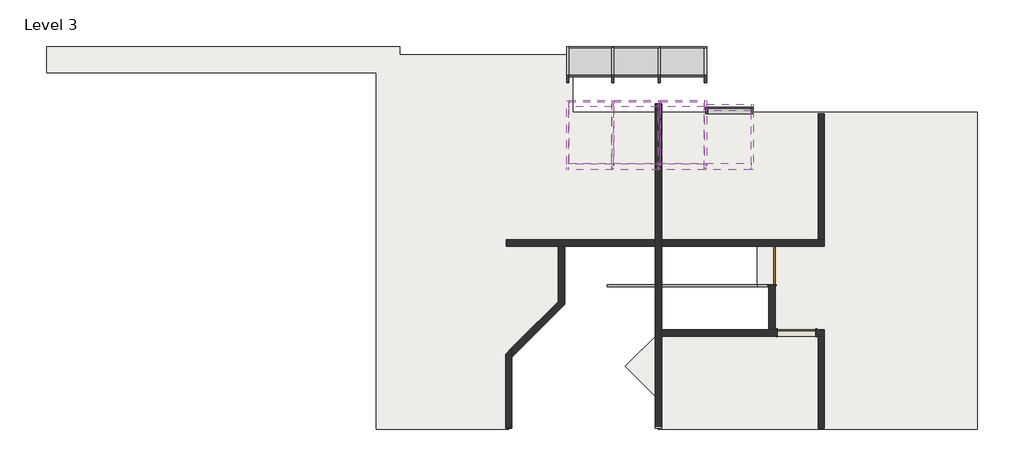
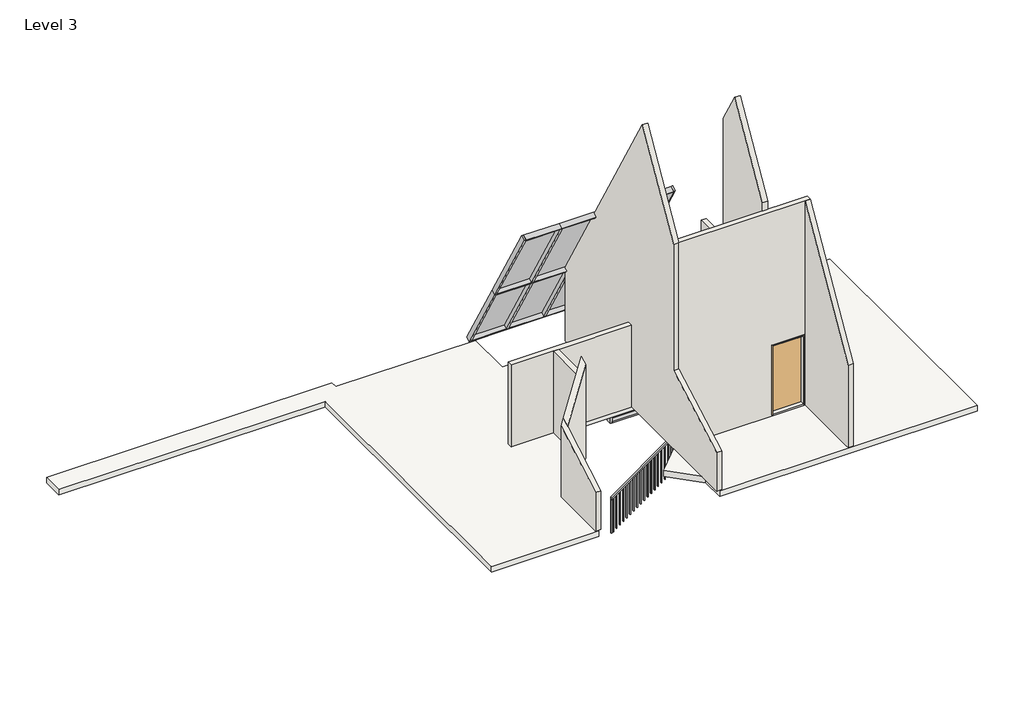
# One storey, incomplete: 28 members, 9 walls, 8 plates, 2 doors, 1 railing, 1 slab.
"""IFC4 building model written with IfcOpenShell, lengths in millimetres."""

from ifc_helpers import new_model, si_unit, frame, origin, place, context, project, spatial, polyline, outline, extrude, faceted_brep, transform, mapped, element, save
from components import m_single_flush_02f8d604, rectangular_mullion_50_x_150mm_32aaa733, rectangular_mullion_50_x_150mm_8c829915, rectangular_mullion_50_x_150mm_c2a96b6b, rectangular_mullion_50_x_150mm_0b67247b, rectangular_mullion_50_x_150mm_26a5e8d8, rectangular_mullion_50_x_150mm_135835cf, rectangular_mullion_50_x_150mm_268284f3, rectangular_mullion_50_x_150mm_5ab7184c, rectangular_mullion_50_x_150mm_e073311a, rectangular_mullion_50_x_150mm_1a59cfe9, rectangular_mullion_50_x_150mm_3bc2b7d4, rectangular_mullion_50_x_150mm_53ab1cb9, rectangular_mullion_50_x_150mm_802e1733, rectangular_mullion_50_x_150mm_4770c21b, rectangular_mullion_50_x_150mm_0dbe456f, rectangular_mullion_50_x_150mm_6248b032, rectangular_mullion_50_x_150mm_ba08e771, rectangular_mullion_50_x_150mm_8ebf05df, system_panel_glazed_e030b4d7, system_panel_glazed_57cf4964, system_panel_glazed_88e9035b, system_panel_glazed_2101e6c2, system_panel_glazed_cad9babb, system_panel_glazed_5cd093d0, railing_1100mm_3fbf77a3

model = new_model("IFC4")

# Units and contexts
model_context = context("Model", 3, world=origin())
ifc_project = project(units=[si_unit("LENGTHUNIT", "METRE", prefix="MILLI")], contexts=[model_context])

# Site, building, storey
site = spatial("IfcSite", under=ifc_project)
building = spatial("IfcBuilding", under=site)
storey = spatial("IfcBuildingStorey", under=building, Name="Level 3", Elevation=7500.0)

# Doors
placement = place(None, origin())
m_single_flush_shape = m_single_flush_02f8d604(model_context)
element("IfcDoor", 1, ObjectType="M_Single-Flush : 90x210", at=placement, inside=storey, context=model_context, shape_type="MappedRepresentation", body=[
    mapped(m_single_flush_shape, transform((4137.2585855, 2698.1055353, 7550.0), x_axis=(-1.0, 0.0, 0.0), y_axis=(0.0, -1.0, 0.0), z_axis=(0.0, 0.0, 1.0))),
])
element("IfcDoor", 2, ObjectType="M_Single-Flush : 90x210", at=placement, inside=storey, context=model_context, shape_type="MappedRepresentation", body=[
    mapped(m_single_flush_shape, transform((3562.3416331, 4273.1661699, 7500.0), x_axis=(5.272766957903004e-05, 0.9999999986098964, 0.0), y_axis=(-0.9999999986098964, 5.272766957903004e-05, 0.0), z_axis=(0.0, 0.0, 1.0))),
])

# Members
rectangular_mullion_50_x_150mm_shape = rectangular_mullion_50_x_150mm_32aaa733(model_context)
element("IfcMember", 3, ObjectType="Rectangular Mullion : 50 x 150mm", at=placement, inside=storey, context=model_context, shape_type="MappedRepresentation", body=[
    mapped(rectangular_mullion_50_x_150mm_shape, transform((2010.0327878, 7898.5266903, 4700.0), x_axis=(-1.0, 0.0, 0.0), y_axis=(0.0, 1.0, 0.0), z_axis=(0.0, 0.0, -1.0))),
])
element("IfcMember", 4, ObjectType="Rectangular Mullion : 50 x 150mm", at=placement, inside=storey, context=model_context, shape_type="MappedRepresentation", body=[
    mapped(rectangular_mullion_50_x_150mm_shape, transform((3127.5327716, 7898.5266903, 7500.0), x_axis=(1.0, 0.0, 0.0), y_axis=(0.0, 1.0, 0.0), z_axis=(0.0, 0.0, 1.0))),
])
rectangular_mullion_50_x_150mm_2_shape = rectangular_mullion_50_x_150mm_8c829915(model_context)
element("IfcMember", 5, ObjectType="Rectangular Mullion : 50 x 150mm", at=placement, inside=storey, context=model_context, shape_type="MappedRepresentation", body=[
    mapped(rectangular_mullion_50_x_150mm_2_shape, transform((2060.0327878, 7898.5266903, 7500.0), x_axis=(0.0, 0.0, 1.0), y_axis=(0.0, 1.0, 0.0), z_axis=(-1.0, 0.0, 0.0))),
])
rectangular_mullion_50_x_150mm_3_shape = rectangular_mullion_50_x_150mm_c2a96b6b(model_context)
element("IfcMember", 6, ObjectType="Rectangular Mullion : 50 x 150mm", at=placement, inside=storey, context=model_context, shape_type="MappedRepresentation", body=[
    mapped(rectangular_mullion_50_x_150mm_3_shape, transform((3077.5327716, 7898.5266903, 4700.0), x_axis=(0.0, 0.0, -1.0), y_axis=(0.0, 1.0, 0.0), z_axis=(1.0, 0.0, 0.0))),
])
rectangular_mullion_50_x_150mm_4_shape = rectangular_mullion_50_x_150mm_0b67247b(model_context)
element("IfcMember", 7, ObjectType="Rectangular Mullion : 50 x 150mm", at=placement, inside=storey, context=model_context, shape_type="MappedRepresentation", body=[
    mapped(rectangular_mullion_50_x_150mm_4_shape, transform((2035.0409459, 8053.2467062, 9699.7045256), x_axis=(0.9999999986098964, -5.27276695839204e-05, 0.0), y_axis=(-4.566350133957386e-05, -0.86602540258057, -0.5000000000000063), z_axis=(2.6363834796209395e-05, 0.4999999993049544, -0.8660254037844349))),
])
rectangular_mullion_50_x_150mm_5_shape = rectangular_mullion_50_x_150mm_26a5e8d8(model_context)
element("IfcMember", 8, ObjectType="Rectangular Mullion : 50 x 150mm", at=placement, inside=storey, context=model_context, shape_type="MappedRepresentation", body=[
    mapped(rectangular_mullion_50_x_150mm_5_shape, transform((2010.0409459, 8053.2480244, 9699.7045256), x_axis=(-0.9999999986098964, 5.2727669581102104e-05, 0.0), y_axis=(-4.5663501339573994e-05, -0.8660254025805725, -0.500000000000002), z_axis=(-2.6363834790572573e-05, -0.4999999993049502, 0.8660254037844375))),
])
element("IfcMember", 9, ObjectType="Rectangular Mullion : 50 x 150mm", at=placement, inside=storey, context=model_context, shape_type="MappedRepresentation", body=[
    mapped(rectangular_mullion_50_x_150mm_5_shape, transform((927.5409474, 8053.3051021, 9699.7045256), x_axis=(-0.9999999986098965, 5.27276695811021e-05, 0.0), y_axis=(-4.566350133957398e-05, -0.8660254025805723, -0.5000000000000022), z_axis=(-2.636383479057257e-05, -0.49999999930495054, 0.8660254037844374))),
])
element("IfcMember", 10, ObjectType="Rectangular Mullion : 50 x 150mm", at=placement, inside=storey, context=model_context, shape_type="MappedRepresentation", body=[
    mapped(rectangular_mullion_50_x_150mm_5_shape, transform((-154.9590511, 8053.3621798, 9699.7045256), x_axis=(-0.9999999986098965, 5.272766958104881e-05, 0.0), y_axis=(-4.5663501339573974e-05, -0.8660254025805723, -0.5000000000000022), z_axis=(-2.636383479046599e-05, -0.49999999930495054, 0.8660254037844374))),
])
rectangular_mullion_50_x_150mm_6_shape = rectangular_mullion_50_x_150mm_135835cf(model_context)
element("IfcMember", 11, ObjectType="Rectangular Mullion : 50 x 150mm", at=placement, inside=storey, context=model_context, shape_type="MappedRepresentation", body=[
    mapped(rectangular_mullion_50_x_150mm_6_shape, transform((-1237.4590496, 8053.4192575, 9699.7045256), x_axis=(-0.9999999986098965, 5.272766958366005e-05, 0.0), y_axis=(-4.5663501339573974e-05, -0.8660254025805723, -0.5000000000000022), z_axis=(-2.6363834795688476e-05, -0.49999999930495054, 0.8660254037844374))),
])
rectangular_mullion_50_x_150mm_7_shape = rectangular_mullion_50_x_150mm_268284f3(model_context)
element("IfcMember", 12, ObjectType="Rectangular Mullion : 50 x 150mm", at=placement, inside=storey, context=model_context, shape_type="MappedRepresentation", body=[
    mapped(rectangular_mullion_50_x_150mm_7_shape, transform((-1187.3920855, 9323.4166193, 7500.0), x_axis=(2.6363834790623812e-05, 0.49999999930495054, -0.8660254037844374), y_axis=(-4.5663501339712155e-05, -0.8660254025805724, -0.5000000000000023), z_axis=(-0.9999999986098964, 5.272766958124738e-05, 0.0))),
])
rectangular_mullion_50_x_150mm_8_shape = rectangular_mullion_50_x_150mm_5ab7184c(model_context)
element("IfcMember", 13, ObjectType="Rectangular Mullion : 50 x 150mm", at=placement, inside=storey, context=model_context, shape_type="MappedRepresentation", body=[
    mapped(rectangular_mullion_50_x_150mm_8_shape, transform((-154.892087, 9323.362178, 7500.0), x_axis=(2.636383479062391e-05, 0.49999999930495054, -0.8660254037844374), y_axis=(-4.566350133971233e-05, -0.8660254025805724, -0.5000000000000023), z_axis=(-0.9999999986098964, 5.2727669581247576e-05, 0.0))),
])
element("IfcMember", 14, ObjectType="Rectangular Mullion : 50 x 150mm", at=placement, inside=storey, context=model_context, shape_type="MappedRepresentation", body=[
    mapped(rectangular_mullion_50_x_150mm_6_shape, transform((2035.10791, 9323.2467044, 7500.0), x_axis=(0.9999999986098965, -5.2727669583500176e-05, 0.0), y_axis=(-4.5663501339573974e-05, -0.8660254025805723, -0.5000000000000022), z_axis=(2.636383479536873e-05, 0.49999999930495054, -0.8660254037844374))),
])
rectangular_mullion_50_x_150mm_9_shape = rectangular_mullion_50_x_150mm_e073311a(model_context)
element("IfcMember", 15, ObjectType="Rectangular Mullion : 50 x 150mm", at=placement, inside=storey, context=model_context, shape_type="MappedRepresentation", body=[
    mapped(rectangular_mullion_50_x_150mm_9_shape, transform((927.6079115, 9323.3051003, 7500.0), x_axis=(2.6363834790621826e-05, 0.49999999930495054, -0.8660254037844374), y_axis=(-4.566350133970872e-05, -0.8660254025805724, -0.5000000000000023), z_axis=(-0.9999999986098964, 5.272766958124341e-05, 0.0))),
])
rectangular_mullion_50_x_150mm_10_shape = rectangular_mullion_50_x_150mm_1a59cfe9(model_context)
element("IfcMember", 16, ObjectType="Rectangular Mullion : 50 x 150mm", at=placement, inside=storey, context=model_context, shape_type="MappedRepresentation", body=[
    mapped(rectangular_mullion_50_x_150mm_10_shape, transform((2009.9642271, 6598.2480265, 12219.8384505), x_axis=(-0.9999999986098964, 5.2727669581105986e-05, 0.0), y_axis=(-4.566350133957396e-05, -0.8660254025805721, -0.5000000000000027), z_axis=(-2.6363834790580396e-05, -0.4999999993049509, 0.8660254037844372))),
])
element("IfcMember", 17, ObjectType="Rectangular Mullion : 50 x 150mm", at=placement, inside=storey, context=model_context, shape_type="MappedRepresentation", body=[
    mapped(rectangular_mullion_50_x_150mm_10_shape, transform((927.4642286, 6598.3051042, 12219.8384505), x_axis=(-0.9999999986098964, 5.272766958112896e-05, 0.0), y_axis=(-4.566350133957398e-05, -0.8660254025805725, -0.5000000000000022), z_axis=(-2.6363834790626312e-05, -0.4999999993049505, 0.8660254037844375))),
])
element("IfcMember", 18, ObjectType="Rectangular Mullion : 50 x 150mm", at=placement, inside=storey, context=model_context, shape_type="MappedRepresentation", body=[
    mapped(rectangular_mullion_50_x_150mm_10_shape, transform((-155.0357699, 6598.3621819, 12219.8384505), x_axis=(-0.9999999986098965, 5.272766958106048e-05, 0.0), y_axis=(-4.566350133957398e-05, -0.8660254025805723, -0.5000000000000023), z_axis=(-2.6363834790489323e-05, -0.4999999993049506, 0.8660254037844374))),
])
rectangular_mullion_50_x_150mm_11_shape = rectangular_mullion_50_x_150mm_3bc2b7d4(model_context)
element("IfcMember", 19, ObjectType="Rectangular Mullion : 50 x 150mm", at=placement, inside=storey, context=model_context, shape_type="MappedRepresentation", body=[
    mapped(rectangular_mullion_50_x_150mm_11_shape, transform((-1237.5370865, 6573.4192596, 12263.1397207), x_axis=(-0.9999999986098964, 5.272766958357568e-05, 0.0), y_axis=(-4.566350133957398e-05, -0.8660254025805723, -0.5000000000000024), z_axis=(-2.636383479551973e-05, -0.49999999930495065, 0.8660254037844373))),
])
rectangular_mullion_50_x_150mm_12_shape = rectangular_mullion_50_x_150mm_53ab1cb9(model_context)
element("IfcMember", 20, ObjectType="Rectangular Mullion : 50 x 150mm", at=placement, inside=storey, context=model_context, shape_type="MappedRepresentation", body=[
    mapped(rectangular_mullion_50_x_150mm_12_shape, transform((3127.5367261, 7973.1891013, 9838.2685902), x_axis=(0.9999999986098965, -5.2727669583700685e-05, 0.0), y_axis=(-4.5663501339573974e-05, -0.8660254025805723, -0.5000000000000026), z_axis=(2.6363834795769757e-05, 0.4999999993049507, -0.8660254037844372))),
])
rectangular_mullion_50_x_150mm_13_shape = rectangular_mullion_50_x_150mm_802e1733(model_context)
element("IfcMember", 21, ObjectType="Rectangular Mullion : 50 x 150mm", at=placement, inside=storey, context=model_context, shape_type="MappedRepresentation", body=[
    mapped(rectangular_mullion_50_x_150mm_13_shape, transform((2010.0327878, 7898.5266903, 7500.0), x_axis=(-1.0, 0.0, 0.0), y_axis=(0.0, 1.0, 0.0), z_axis=(0.0, 0.0, -1.0))),
])
rectangular_mullion_50_x_150mm_14_shape = rectangular_mullion_50_x_150mm_4770c21b(model_context)
element("IfcMember", 22, ObjectType="Rectangular Mullion : 50 x 150mm", at=placement, inside=storey, context=model_context, shape_type="MappedRepresentation", body=[
    mapped(rectangular_mullion_50_x_150mm_14_shape, transform((3127.5327716, 7898.5266903, 9967.5876796), x_axis=(1.0, 0.0, 0.0), y_axis=(0.0, 1.0, 0.0), z_axis=(0.0, 0.0, 1.0))),
])
rectangular_mullion_50_x_150mm_15_shape = rectangular_mullion_50_x_150mm_0dbe456f(model_context)
element("IfcMember", 23, ObjectType="Rectangular Mullion : 50 x 150mm", at=placement, inside=storey, context=model_context, shape_type="MappedRepresentation", body=[
    mapped(rectangular_mullion_50_x_150mm_15_shape, transform((2035.0367276, 7973.2467063, 9838.2685902), x_axis=(2.63638348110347e-05, 0.49999999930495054, -0.8660254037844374), y_axis=(-4.5663501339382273e-05, -0.8660254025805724, -0.5000000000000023), z_axis=(-0.9999999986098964, 5.272766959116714e-05, 0.0))),
])
rectangular_mullion_50_x_150mm_16_shape = rectangular_mullion_50_x_150mm_6248b032(model_context)
element("IfcMember", 24, ObjectType="Rectangular Mullion : 50 x 150mm", at=placement, inside=storey, context=model_context, shape_type="MappedRepresentation", body=[
    mapped(rectangular_mullion_50_x_150mm_16_shape, transform((3077.4629075, 6573.1917397, 12263.1397207), x_axis=(-2.6363834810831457e-05, -0.49999999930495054, 0.8660254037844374), y_axis=(-4.566350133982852e-05, -0.8660254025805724, -0.5000000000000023), z_axis=(0.9999999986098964, -5.272766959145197e-05, 0.0))),
])
rectangular_mullion_50_x_150mm_17_shape = rectangular_mullion_50_x_150mm_ba08e771(model_context)
element("IfcMember", 25, ObjectType="Rectangular Mullion : 50 x 150mm", at=placement, inside=storey, context=model_context, shape_type="MappedRepresentation", body=[
    mapped(rectangular_mullion_50_x_150mm_17_shape, transform((902.5409474, 8053.3064203, 9699.7045256), x_axis=(-2.636383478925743e-05, -0.49999999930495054, 0.8660254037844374), y_axis=(-4.566350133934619e-05, -0.8660254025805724, -0.5000000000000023), z_axis=(0.9999999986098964, -5.272766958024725e-05, 0.0))),
])
element("IfcMember", 26, ObjectType="Rectangular Mullion : 50 x 150mm", at=placement, inside=storey, context=model_context, shape_type="MappedRepresentation", body=[
    mapped(rectangular_mullion_50_x_150mm_17_shape, transform((1985.0409459, 8053.2493426, 9699.7045256), x_axis=(-2.6363834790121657e-05, -0.49999999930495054, 0.8660254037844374), y_axis=(-4.56635013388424e-05, -0.8660254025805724, -0.5000000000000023), z_axis=(0.9999999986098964, -5.272766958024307e-05, 0.0))),
])
element("IfcMember", 27, ObjectType="Rectangular Mullion : 50 x 150mm", at=placement, inside=storey, context=model_context, shape_type="MappedRepresentation", body=[
    mapped(rectangular_mullion_50_x_150mm_8_shape, transform((927.4629104, 6573.3051042, 12263.1397207), x_axis=(-2.6363834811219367e-05, -0.49999999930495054, 0.8660254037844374), y_axis=(-4.5663501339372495e-05, -0.8660254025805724, -0.5000000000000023), z_axis=(0.9999999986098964, -5.2727669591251e-05, 0.0))),
])
element("IfcMember", 28, ObjectType="Rectangular Mullion : 50 x 150mm", at=placement, inside=storey, context=model_context, shape_type="MappedRepresentation", body=[
    mapped(rectangular_mullion_50_x_150mm_8_shape, transform((2009.9629089, 6573.2480265, 12263.1397207), x_axis=(-2.6363834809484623e-05, -0.49999999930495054, 0.8660254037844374), y_axis=(-4.566350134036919e-05, -0.8660254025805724, -0.5000000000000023), z_axis=(0.9999999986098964, -5.2727669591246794e-05, 0.0))),
])
rectangular_mullion_50_x_150mm_18_shape = rectangular_mullion_50_x_150mm_8ebf05df(model_context)
element("IfcMember", 29, ObjectType="Rectangular Mullion : 50 x 150mm", at=placement, inside=storey, context=model_context, shape_type="MappedRepresentation", body=[
    mapped(rectangular_mullion_50_x_150mm_18_shape, transform((-179.9590511, 8053.363498, 9699.7045256), x_axis=(-2.6363834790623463e-05, -0.49999999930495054, 0.8660254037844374), y_axis=(-4.566350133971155e-05, -0.8660254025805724, -0.5000000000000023), z_axis=(0.9999999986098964, -5.272766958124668e-05, 0.0))),
])
element("IfcMember", 30, ObjectType="Rectangular Mullion : 50 x 150mm", at=placement, inside=storey, context=model_context, shape_type="MappedRepresentation", body=[
    mapped(rectangular_mullion_50_x_150mm_7_shape, transform((-155.037088, 6573.3621819, 12263.1397207), x_axis=(-2.636383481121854e-05, -0.49999999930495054, 0.8660254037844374), y_axis=(-4.5663501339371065e-05, -0.8660254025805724, -0.5000000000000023), z_axis=(0.9999999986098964, -5.272766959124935e-05, 0.0))),
])

# Plates
system_panel_glazed_shape = system_panel_glazed_e030b4d7(model_context)
element("IfcPlate", 31, ObjectType="System Panel : Glazed", at=placement, inside=storey, context=model_context, shape_type="MappedRepresentation", body=[
    mapped(system_panel_glazed_shape, transform((-683.6434044, 9298.3900578, 7543.3012702), x_axis=(-0.9999999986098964, 5.2727669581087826e-05, 0.0), y_axis=(-4.566350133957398e-05, -0.8660254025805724, -0.5000000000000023), z_axis=(-2.6363834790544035e-05, -0.49999999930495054, 0.8660254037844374))),
])
system_panel_glazed_2_shape = system_panel_glazed_57cf4964(model_context)
element("IfcPlate", 32, ObjectType="System Panel : Glazed", at=placement, inside=storey, context=model_context, shape_type="MappedRepresentation", body=[
    mapped(system_panel_glazed_2_shape, transform((386.3565941, 9298.3336392, 7543.3012702), x_axis=(-0.9999999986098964, 5.2727669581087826e-05, 0.0), y_axis=(-4.566350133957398e-05, -0.8660254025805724, -0.5000000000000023), z_axis=(-2.6363834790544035e-05, -0.49999999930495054, 0.8660254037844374))),
])
element("IfcPlate", 33, ObjectType="System Panel : Glazed", at=placement, inside=storey, context=model_context, shape_type="MappedRepresentation", body=[
    mapped(system_panel_glazed_2_shape, transform((1468.8565926, 9298.2765615, 7543.3012702), x_axis=(-0.9999999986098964, 5.2727669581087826e-05, 0.0), y_axis=(-4.566350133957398e-05, -0.8660254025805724, -0.5000000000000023), z_axis=(-2.6363834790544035e-05, -0.49999999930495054, 0.8660254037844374))),
])
system_panel_glazed_3_shape = system_panel_glazed_88e9035b(model_context)
element("IfcPlate", 34, ObjectType="System Panel : Glazed", at=placement, inside=storey, context=model_context, shape_type="MappedRepresentation", body=[
    mapped(system_panel_glazed_3_shape, transform((1468.7902876, 8040.7765632, 9721.3551607), x_axis=(-0.9999999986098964, 5.2727669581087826e-05, 0.0), y_axis=(-4.566350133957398e-05, -0.8660254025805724, -0.5000000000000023), z_axis=(-2.6363834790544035e-05, -0.49999999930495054, 0.8660254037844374))),
])
element("IfcPlate", 35, ObjectType="System Panel : Glazed", at=placement, inside=storey, context=model_context, shape_type="MappedRepresentation", body=[
    mapped(system_panel_glazed_3_shape, transform((386.2902891, 8040.8336409, 9721.3551607), x_axis=(-0.9999999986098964, 5.2727669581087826e-05, 0.0), y_axis=(-4.566350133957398e-05, -0.8660254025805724, -0.5000000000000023), z_axis=(-2.6363834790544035e-05, -0.49999999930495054, 0.8660254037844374))),
])
system_panel_glazed_4_shape = system_panel_glazed_2101e6c2(model_context)
element("IfcPlate", 36, ObjectType="System Panel : Glazed", at=placement, inside=storey, context=model_context, shape_type="MappedRepresentation", body=[
    mapped(system_panel_glazed_4_shape, transform((-683.7097095, 8040.8900596, 9721.3551607), x_axis=(-0.9999999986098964, 5.2727669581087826e-05, 0.0), y_axis=(-4.566350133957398e-05, -0.8660254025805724, -0.5000000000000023), z_axis=(-2.6363834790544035e-05, -0.49999999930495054, 0.8660254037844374))),
])
system_panel_glazed_5_shape = system_panel_glazed_cad9babb(model_context)
element("IfcPlate", 37, ObjectType="System Panel : Glazed", at=placement, inside=storey, context=model_context, shape_type="MappedRepresentation", body=[
    mapped(system_panel_glazed_5_shape, transform((2568.7827797, 7898.5266903, 4750.0), x_axis=(-1.0, 0.0, 0.0), y_axis=(0.0, -1.0, 0.0), z_axis=(0.0, 0.0, 1.0))),
])
system_panel_glazed_6_shape = system_panel_glazed_5cd093d0(model_context)
element("IfcPlate", 38, ObjectType="System Panel : Glazed", at=placement, inside=storey, context=model_context, shape_type="MappedRepresentation", body=[
    mapped(system_panel_glazed_6_shape, transform((2568.7827797, 7898.5266903, 7525.0), x_axis=(-1.0, 0.0, 0.0), y_axis=(0.0, -1.0, 0.0), z_axis=(0.0, 0.0, 1.0))),
])

# Railing
railing_1100mm_shape = railing_1100mm_3fbf77a3(model_context)
element("IfcRailing", 39, ObjectType="1100mm", at=placement, inside=storey, context=model_context, shape_type="MappedRepresentation", body=[
    mapped(railing_1100mm_shape, transform((0.0, 0.0, 0.0), x_axis=(1.0, 0.0, 0.0), y_axis=(0.0, 1.0, 0.0), z_axis=(0.0, 0.0, 1.0))),
])

# Slab
element("IfcSlab", 40, ObjectType="Generic 150mm", at=placement, inside=storey, context=model_context, shape_type="Brep", body=[
    faceted_brep([(8362.5301457, 7848.2506611, 7330.0), (8362.1399431, 447.9130824, 7330.0), (907.1399535, 448.3061672, 7330.0), (907.176659, 1144.4392774, 7330.0), (136.3193972, 1915.3778345, 7330.0), (924.1301725, 2703.1055353, 7330.0), (3487.2588474, 2703.1055353, 7330.0), (3487.3176422, 3818.1701251, 7330.0), (3217.3176425, 3818.1843616, 7330.0), (3217.369052, 4793.1843603, 7330.0), (-1338.5688983, 4793.4245842, 7330.0), (-1338.6412896, 3420.495654, 7330.0), (-2582.7689278, 2176.4992088, 7330.0), (-2582.8600416, 448.4901868, 7330.0), (-5662.8600374, 448.652588, 7330.0), (-5687.8600373, 448.6539062, 7330.0), (-5687.4450754, 8318.5627614, 7330.0), (-5687.4209389, 8776.3199101, 7330.0), (-13387.4209282, 8776.7259131, 7330.0), (-13387.3889049, 9384.0598968, 7330.0), (-5137.3889164, 9383.6248936, 7330.0), (-5137.398671, 9198.6248938, 7330.0), (-1095.0564141, 9198.4117505, 7330.0), (-1095.0564141, 9173.5906209, 7330.0), (-1095.0564141, 9036.374825, 7330.0), (-1095.0564141, 8130.0752359, 7330.0), (-1095.0564141, 7973.2480246, 7330.0), (-1095.0564141, 7848.7493376, 7330.0), (3127.5301529, 7848.5266904, 7330.0), (8362.5301457, 7848.2506611, 7500.0), (3127.5301529, 7848.5266904, 7500.0), (-1095.0564141, 7848.7493376, 7500.0), (-1095.0564141, 7973.2480246, 7500.0), (-1095.0564141, 9173.5906209, 7500.0), (-1095.0564141, 9198.4117505, 7500.0), (-5137.398671, 9198.6248938, 7500.0), (-5137.3889164, 9383.6248936, 7500.0), (-13387.3889049, 9384.0598968, 7500.0), (-13387.4209282, 8776.7259131, 7500.0), (-5687.4209389, 8776.3199101, 7500.0), (-5687.4295498, 8613.0113983, 7500.0), (-5687.8600373, 448.6539062, 7500.0), (-5662.8600374, 448.652588, 7500.0), (-2582.8600416, 448.4901868, 7500.0), (-2582.7689278, 2176.4992088, 7500.0), (-1338.6412896, 3420.495654, 7500.0), (-1338.5688983, 4793.4245842, 7500.0), (3217.369052, 4793.1843603, 7500.0), (3217.3176425, 3818.1843616, 7500.0), (3487.3176422, 3818.1701251, 7500.0), (3487.2588474, 2703.1055353, 7500.0), (924.1301725, 2703.1055353, 7500.0), (136.3193972, 1915.3778345, 7500.0), (907.176659, 1144.4392774, 7500.0), (907.1399535, 448.3061672, 7500.0), (8362.1399431, 447.9130824, 7500.0)], [[[0, 1, 2, 3, 4, 5, 6, 7, 8, 9, 10, 11, 12, 13, 14, 15, 16, 17, 18, 19, 20, 21, 22, 23, 24, 25, 26, 27, 28]], [[29, 30, 31, 32, 33, 34, 35, 36, 37, 38, 39, 40, 41, 42, 43, 44, 45, 46, 47, 48, 49, 50, 51, 52, 53, 54, 55]], [[1, 0, 29, 55]], [[2, 1, 55, 54]], [[3, 2, 54, 53]], [[4, 3, 53, 52]], [[5, 4, 52, 51]], [[6, 5, 51, 50]], [[7, 6, 50, 49]], [[8, 7, 49, 48]], [[9, 8, 48, 47]], [[10, 9, 47, 46]], [[11, 10, 46, 45]], [[12, 11, 45, 44]], [[13, 12, 44, 43]], [[15, 14, 13, 43, 42, 41]], [[17, 16, 15, 41, 40, 39]], [[18, 17, 39, 38]], [[19, 18, 38, 37]], [[20, 19, 37, 36]], [[21, 20, 36, 35]], [[22, 21, 35, 34]], [[27, 26, 25, 24, 23, 22, 34, 33, 32, 31]], [[0, 28, 27, 31, 30, 29]]]),
])

# Walls
element("IfcWall", 41, ObjectType="15cm室內", at=placement, inside=storey, context=model_context, shape_type="Brep", body=[
    faceted_brep([(-2647.4986611, 4873.4936012, 7500.0), (-2647.4986611, 4873.4936012, 10000.0), (837.3732735, 4873.309852, 10000.0), (837.3732735, 4873.309852, 7500.0), (-2647.5065702, 4723.4936014, 10000.0), (-2647.5065702, 4723.4936014, 7500.0), (-1428.5725891, 4723.4293298, 7500.0), (-1278.5725893, 4723.4214207, 7500.0), (837.3653644, 4723.3098522, 7500.0), (837.3653644, 4723.3098522, 10000.0), (-1278.5725893, 4723.4214207, 10000.0), (-1428.5725891, 4723.4293298, 10000.0)], [[[0, 1, 2, 3]], [[4, 5, 6, 7, 8, 9, 10, 11]], [[5, 0, 3, 8, 7, 6]], [[1, 0, 5, 4]], [[1, 4, 11, 10, 9, 2]], [[3, 2, 9, 8]]]),
    faceted_brep([(4787.373268, 4873.1015777, 10000.0), (4787.373268, 4873.1015777, 7500.0), (4637.3732683, 4873.1094869, 7500.0), (987.3732733, 4873.3019428, 7500.0), (987.3732733, 4873.3019428, 10000.0), (4637.3732683, 4873.1094869, 10000.0), (4787.3653589, 4723.1015779, 7500.0), (4787.3653589, 4723.1015779, 10000.0), (987.3653642, 4723.3019431, 10000.0), (987.3653642, 4723.3019431, 7500.0)], [[[0, 1, 2, 3, 4, 5]], [[6, 7, 8, 9]], [[1, 6, 9, 3, 2]], [[7, 0, 5, 4, 8]], [[1, 0, 7, 6]], [[4, 3, 9, 8]]]),
])
element("IfcWall", 42, ObjectType="15cm室內", at=placement, inside=storey, context=model_context, shape_type="Brep", body=[
    faceted_brep([(-2512.8587236, 473.4864958, 7500.0), (-2512.7712024, 2133.358433, 7500.0), (-2512.7600171, 2345.490467, 7500.0), (-2512.7600171, 2345.490467, 9767.4045386), (-2512.7712024, 2133.358433, 9644.9300514), (-2512.8587236, 473.4864958, 8686.6025404), (-2662.8587233, 473.494405, 7500.0), (-2662.8587233, 473.494405, 8686.6025404), (-2662.7679261, 2195.4983764, 9680.8019982), (-2662.7679261, 2195.4983764, 7500.0)], [[[0, 1, 2, 3, 4, 5]], [[6, 7, 8, 9]], [[2, 1, 0, 6, 9]], [[3, 2, 9, 8]], [[0, 5, 7, 6]], [[5, 4, 3, 8, 7]]]),
])
element("IfcWall", 43, ObjectType="15cm室內", at=placement, inside=storey, context=model_context, shape_type="Brep", body=[
    faceted_brep([(-2512.7712024, 2133.358433, 7500.0), (-1278.6440915, 3367.3554054, 7500.0), (-1278.6440915, 3367.3554054, 10357.4161044), (-2512.7712024, 2133.358433, 9644.9300514), (-2512.7600171, 2345.490467, 7500.0), (-2512.7600171, 2345.490467, 9767.4045386), (-1278.6329063, 3579.4874395, 10479.8905915), (-1278.6329063, 3579.4874395, 10000.0), (-1278.6329063, 3579.4874395, 7500.0), (-1428.6408152, 3429.4953488, 7500.0)], [[[0, 1, 2, 3]], [[4, 5, 6, 7, 8, 9]], [[1, 0, 4, 9, 8]], [[2, 1, 8, 7, 6]], [[0, 3, 5, 4]], [[3, 2, 6, 5]]]),
])
element("IfcWall", 44, ObjectType="15cm室內", at=placement, inside=storey, context=model_context, shape_type="SweptSolid", body=[
    extrude(outline(polyline([(-1278.5725893, 4723.4214207), (-1278.6329063, 3579.4874395), (-1428.6408152, 3429.4953488), (-1428.5725891, 4723.4293298), (-1278.5725893, 4723.4214207)])), frame((0.0, 0.0, 7500.0), z_axis=(0.0, 0.0, 1.0), x_axis=(1.0, 0.0, 0.0)), (0.0, 0.0, 1.0), 2500.0),
])
element("IfcWall", 45, ObjectType="15cm", at=placement, inside=storey, context=model_context, shape_type="Brep", body=[
    faceted_brep([(4787.1412663, 473.1015838, 7500.0), (4787.254631, 2623.1055353, 7500.0), (4787.254631, 2623.1055353, 13743.7237068), (4787.1412663, 473.1015838, 10019.8076211), (4637.1412665, 473.109493, 7500.0), (4637.1412665, 473.109493, 8400.0), (4637.1412665, 473.109493, 10018.3956091), (4637.1412665, 473.109493, 10019.8076211), (4637.2546308, 2623.1055353, 13743.7100077), (4637.2546308, 2623.1055353, 7500.0)], [[[0, 1, 2, 3]], [[4, 5, 6, 7, 8, 9]], [[1, 0, 4, 9]], [[0, 3, 7, 6, 5, 4]], [[2, 1, 9, 8]], [[3, 2, 8, 7]]]),
])
element("IfcWall", 46, ObjectType="15cm", at=placement, inside=storey, context=model_context, shape_type="Brep", body=[
    faceted_brep([(987.1412716, 473.301949, 7500.0), (987.2546257, 2623.1055353, 7500.0), (987.2625349, 2773.1055353, 7500.0), (987.3653642, 4723.3019431, 7500.0), (987.3732733, 4873.3019428, 7500.0), (987.5407013, 8048.6355729, 7500.0), (987.5407013, 8048.6355729, 9767.810888), (987.3371507, 4188.2235702, 16454.2406241), (987.2546257, 2623.1055353, 13743.3766641), (987.2546257, 2623.1055353, 9885.9052064), (987.1412716, 473.301949, 8685.1904939), (987.1412716, 473.301949, 8400.0), (837.1412718, 473.3098581, 7500.0), (837.1412718, 473.3098581, 8685.1904939), (837.2546255, 2623.1055353, 9885.9007889), (837.2546255, 2623.1055353, 13743.3629651), (837.3371509, 4188.2314793, 16454.2406241), (837.5407015, 8048.643482, 9767.810888), (837.5407015, 8048.643482, 7500.0), (837.3732735, 4873.309852, 7500.0), (837.3653644, 4723.3098522, 7500.0)], [[[0, 1, 2, 3, 4, 5, 6, 7, 8, 9, 10, 11]], [[12, 13, 14, 15, 16, 17, 18, 19, 20]], [[5, 4, 3, 2, 1, 0, 12, 20, 19, 18]], [[6, 5, 18, 17]], [[7, 6, 17, 16]], [[8, 7, 16, 15]], [[10, 9, 14, 13]], [[0, 11, 10, 13, 12]], [[9, 8, 15, 14]]]),
])
element("IfcWall", 47, ObjectType="15cm", at=placement, inside=storey, context=model_context, shape_type="Brep", body=[
    faceted_brep([(987.2546257, 2623.1055353, 7500.0), (4637.2546308, 2623.1055353, 7500.0), (4787.254631, 2623.1055353, 7500.0), (4787.254631, 2623.1055353, 13743.7168574), (987.2546257, 2623.1055353, 13743.7168574), (987.2546257, 2623.1055353, 13743.3766641), (987.2546257, 2623.1055353, 9885.9052064), (4587.2585855, 2623.1055353, 7550.0), (3687.2585855, 2623.1055353, 7550.0), (3687.2585855, 2623.1055353, 9650.0), (4587.2585855, 2623.1055353, 9650.0), (4787.2625401, 2773.1055353, 7500.0), (3637.2625385, 2773.1055353, 7500.0), (3487.2625383, 2773.1055353, 7500.0), (987.2625349, 2773.1055353, 7500.0), (987.2625349, 2773.1055353, 13743.7168574), (4787.2625401, 2773.1055353, 13743.7168574), (3687.2585855, 2773.1055353, 7550.0), (4587.2585855, 2773.1055353, 7550.0), (4587.2585855, 2773.1055353, 9650.0), (3687.2585855, 2773.1055353, 9650.0)], [[[0, 1, 2, 3, 4, 5, 6], [7, 8, 9, 10]], [[11, 12, 13, 14, 15, 16], [17, 18, 19, 20]], [[2, 1, 0, 14, 13, 12, 11]], [[4, 3, 16, 15]], [[3, 2, 11, 16]], [[0, 6, 5, 4, 15, 14]], [[7, 18, 17, 8]], [[8, 17, 20, 9]], [[9, 20, 19, 10]], [[18, 7, 10, 19]]]),
])
element("IfcWall", 48, ObjectType="15cm", at=placement, inside=storey, context=model_context, shape_type="SweptSolid", body=[
    extrude(outline(polyline([(4787.5288325, 7823.4391625), (4787.373268, 4873.1015777), (4637.3732683, 4873.1094869), (4637.5288327, 7823.4470717), (4787.5288325, 7823.4391625)])), frame((0.0, 0.0, 7500.0), z_axis=(0.0, 0.0, 1.0), x_axis=(1.0, 0.0, 0.0)), (0.0, 0.0, 1.0), 2500.0),
])
element("IfcWall", 49, ObjectType="15cm", at=placement, inside=storey, context=model_context, shape_type="Brep", body=[
    faceted_brep([(3637.2625385, 2773.1055353, 14003.4263022), (3637.2625385, 2773.1055353, 7500.0), (3637.3179056, 3823.162216, 7500.0), (3637.3179056, 3823.162216, 9600.0), (3637.3653605, 4723.1622147, 9600.0), (3637.3653605, 4723.1622147, 15397.5607337), (3637.3351699, 4150.5858191, 16389.2921435), (3487.2625383, 2773.1055353, 7500.0), (3487.2625383, 2773.1055353, 14003.4126031), (3487.3351701, 4150.5937283, 16389.2921435), (3487.3653607, 4723.1701239, 15397.5607337), (3487.3653607, 4723.1701239, 9600.0), (3487.3179058, 3823.1701251, 9600.0), (3487.3179058, 3823.1701251, 7500.0)], [[[0, 1, 2, 3, 4, 5, 6]], [[7, 8, 9, 10, 11, 12, 13]], [[1, 7, 13, 2]], [[10, 5, 4, 11]], [[1, 0, 8, 7]], [[8, 0, 6, 9]], [[5, 10, 9, 6]], [[3, 12, 11, 4]], [[12, 3, 2, 13]]]),
])

save(model, "model.ifc")
